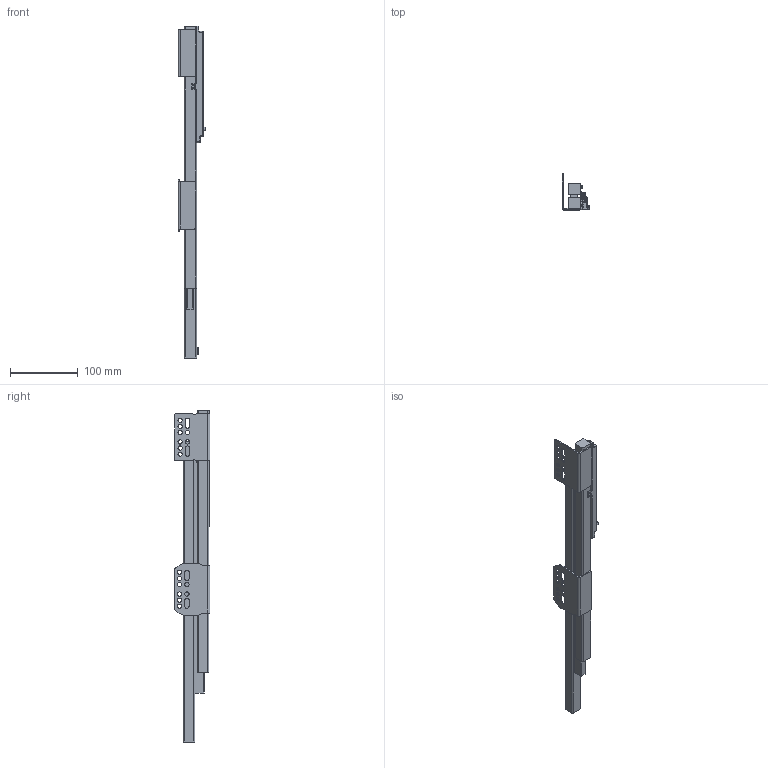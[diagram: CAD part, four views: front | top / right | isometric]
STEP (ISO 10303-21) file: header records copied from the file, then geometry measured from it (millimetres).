
FILE_DESCRIPTION (( 'STEP AP203' ), '1' );
FILE_NAME ('HB015004GX-L(打开).STEP', '2025-05-13T07:24:37', ( '微软用户' ), ( '微软中国' ), 'SwSTEP 2.0', 'SolidWorks 2021', '' );
FILE_SCHEMA (( 'CONFIG_CONTROL_DESIGN' ));
Length unit declared in the file: millimetre
Products named in the file (1): HB015004GX-L(湖羲)
Bounding box: 40.83 x 53 x 488.9 mm (x, y, z)
Volume: 303677 mm3; surface area: 81177 mm2
Topology: 3 solids, 30 shells, 1457 faces, 3840 edges, 2427 vertices
Faces by surface type: plane 493, cylinder 486, bspline 268, torus 158, cone 44, sphere 8
Entity records: 82513 total; most frequent: CARTESIAN_POINT 48563, ORIENTED_EDGE 7616, DIRECTION 6399, EDGE_CURVE 3808, VERTEX_POINT 2427, AXIS2_PLACEMENT_3D 2311, VECTOR 1777, LINE 1777
